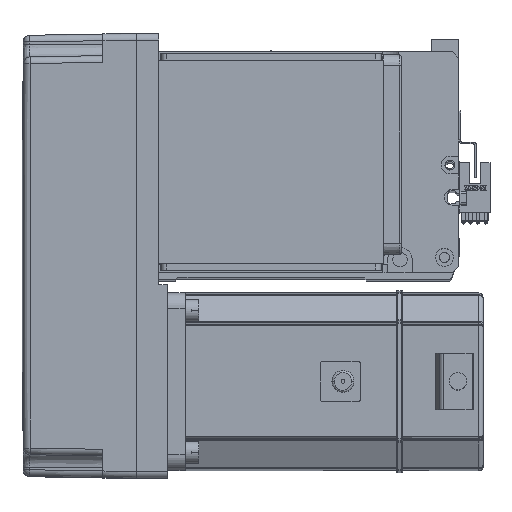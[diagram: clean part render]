
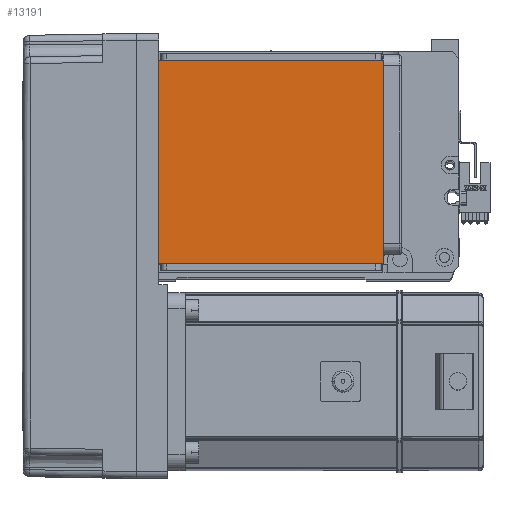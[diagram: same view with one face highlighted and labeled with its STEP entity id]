
A CAD part, top view. The second image highlights one B-rep face of the part: STEP entity #13191.
In plain terms, the highlighted planar face has unit normal (0, 0, 1).
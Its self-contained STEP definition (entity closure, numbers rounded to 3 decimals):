
#230 = ORIENTED_EDGE ( 'NONE', *, *, #19171, .T. ) ;
#2477 = DIRECTION ( 'NONE',  ( 1., 0., 0. ) ) ;
#3619 = CARTESIAN_POINT ( 'NONE',  ( -50.5, 122., 115. ) ) ;
#4688 = VERTEX_POINT ( 'NONE', #23086 ) ;
#9785 = ORIENTED_EDGE ( 'NONE', *, *, #20213, .F. ) ;
#10785 = DIRECTION ( 'NONE',  ( 0., 0., 1. ) ) ;
#10936 = LINE ( 'NONE', #37365, #25653 ) ;
#13191 = ADVANCED_FACE ( 'NONE', ( #54612 ), #53941, .T. ) ;
#13763 = VECTOR ( 'NONE', #34155, 1000. ) ;
#17185 = VECTOR ( 'NONE', #26579, 1000. ) ;
#17860 = VERTEX_POINT ( 'NONE', #31813 ) ;
#18378 = VERTEX_POINT ( 'NONE', #28175 ) ;
#19171 = EDGE_CURVE ( 'NONE', #19663, #18378, #44640, .T. ) ;
#19663 = VERTEX_POINT ( 'NONE', #47448 ) ;
#20213 = EDGE_CURVE ( 'NONE', #17860, #18378, #41240, .T. ) ;
#23086 = CARTESIAN_POINT ( 'NONE',  ( -50.5, 20., 115. ) ) ;
#25653 = VECTOR ( 'NONE', #32852, 1000. ) ;
#26579 = DIRECTION ( 'NONE',  ( 0., -1., 0. ) ) ;
#27980 = LINE ( 'NONE', #3619, #17185 ) ;
#28175 = CARTESIAN_POINT ( 'NONE',  ( 50.5, 111.5, 115. ) ) ;
#30222 = CARTESIAN_POINT ( 'NONE',  ( 50.5, 122., 115. ) ) ;
#31653 = CARTESIAN_POINT ( 'NONE',  ( -70.004, 111.5, 115. ) ) ;
#31813 = CARTESIAN_POINT ( 'NONE',  ( -50.5, 111.5, 115. ) ) ;
#32852 = DIRECTION ( 'NONE',  ( -1., 0., 0. ) ) ;
#33375 = ORIENTED_EDGE ( 'NONE', *, *, #39580, .F. ) ;
#34155 = DIRECTION ( 'NONE',  ( 0., 1., 0. ) ) ;
#35708 = ORIENTED_EDGE ( 'NONE', *, *, #50964, .T. ) ;
#37127 = VECTOR ( 'NONE', #39931, 1000. ) ;
#37365 = CARTESIAN_POINT ( 'NONE',  ( -70.004, 20., 115. ) ) ;
#38493 = EDGE_LOOP ( 'NONE', ( #9785, #35708, #33375, #230 ) ) ;
#39580 = EDGE_CURVE ( 'NONE', #19663, #4688, #10936, .T. ) ;
#39931 = DIRECTION ( 'NONE',  ( 1., 0., 0. ) ) ;
#41240 = LINE ( 'NONE', #31653, #37127 ) ;
#44640 = LINE ( 'NONE', #30222, #13763 ) ;
#47448 = CARTESIAN_POINT ( 'NONE',  ( 50.5, 20., 115. ) ) ;
#50003 = CARTESIAN_POINT ( 'NONE',  ( 0., 0., 115. ) ) ;
#50964 = EDGE_CURVE ( 'NONE', #17860, #4688, #27980, .T. ) ;
#52121 = AXIS2_PLACEMENT_3D ( 'NONE', #50003, #10785, #2477 ) ;
#53941 = PLANE ( 'NONE',  #52121 ) ;
#54612 = FACE_OUTER_BOUND ( 'NONE', #38493, .T. ) ;
